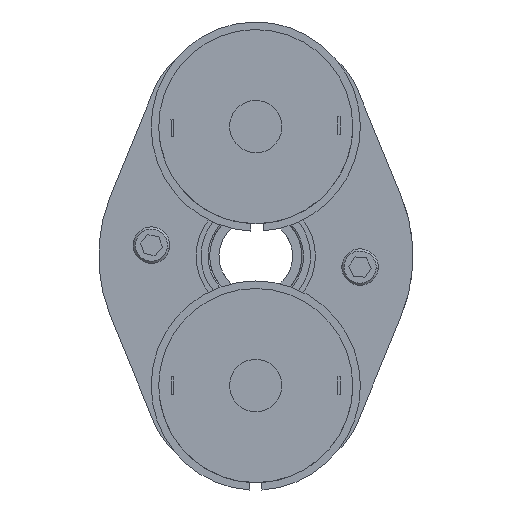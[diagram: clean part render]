
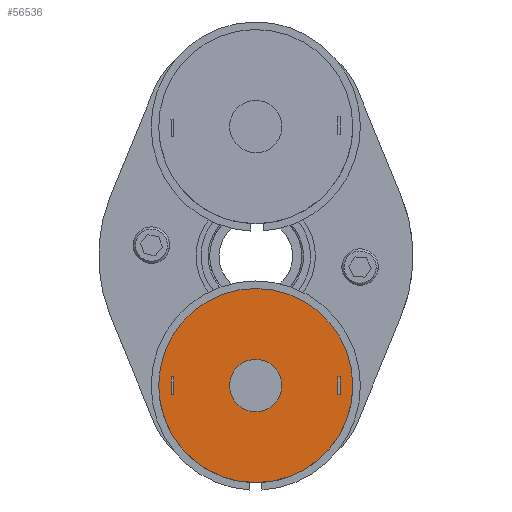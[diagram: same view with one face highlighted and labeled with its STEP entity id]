
A CAD part, front view. The second image highlights one B-rep face of the part: STEP entity #56536.
In plain terms, the highlighted planar face has unit normal (0, -1, 0) as drawn and (0, 0, -1) by its records, which use the part's own axes.
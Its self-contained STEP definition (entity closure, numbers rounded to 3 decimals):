
#77 = DIRECTION ( 'NONE',  ( -1., 0., 0. ) ) ;
#466 = ORIENTED_EDGE ( 'NONE', *, *, #19553, .F. ) ;
#475 = EDGE_CURVE ( 'NONE', #18781, #40641, #41651, .T. ) ;
#2092 = CARTESIAN_POINT ( 'NONE',  ( 15.621, -1.587, -7.112 ) ) ;
#2326 = VECTOR ( 'NONE', #22407, 1000. ) ;
#3331 = CARTESIAN_POINT ( 'NONE',  ( 15.113, -1.587, -7.112 ) ) ;
#3451 = CARTESIAN_POINT ( 'NONE',  ( 0., 0., -7.112 ) ) ;
#3603 = CARTESIAN_POINT ( 'NONE',  ( -15.113, -1.587, -7.112 ) ) ;
#3732 = VECTOR ( 'NONE', #10906, 1000. ) ;
#4494 = DIRECTION ( 'NONE',  ( -1., 0., 0. ) ) ;
#4585 = VERTEX_POINT ( 'NONE', #53015 ) ;
#7139 = VERTEX_POINT ( 'NONE', #54109 ) ;
#8071 = AXIS2_PLACEMENT_3D ( 'NONE', #18563, #32826, #4494 ) ;
#8163 = DIRECTION ( 'NONE',  ( -1., 0., 0. ) ) ;
#8409 = ORIENTED_EDGE ( 'NONE', *, *, #42271, .F. ) ;
#8610 = LINE ( 'NONE', #56504, #44858 ) ;
#9870 = ORIENTED_EDGE ( 'NONE', *, *, #475, .F. ) ;
#10844 = CARTESIAN_POINT ( 'NONE',  ( 17.907, 0., -7.112 ) ) ;
#10906 = DIRECTION ( 'NONE',  ( 0., 1., 0. ) ) ;
#12012 = AXIS2_PLACEMENT_3D ( 'NONE', #56561, #28363, #77 ) ;
#13649 = EDGE_CURVE ( 'NONE', #40641, #22723, #33715, .T. ) ;
#14023 = DIRECTION ( 'NONE',  ( 0., 0., -1. ) ) ;
#14929 = CARTESIAN_POINT ( 'NONE',  ( 0., 0., -7.112 ) ) ;
#15086 = DIRECTION ( 'NONE',  ( -1., 0., 0. ) ) ;
#15510 = ORIENTED_EDGE ( 'NONE', *, *, #35851, .F. ) ;
#16018 = EDGE_CURVE ( 'NONE', #4585, #52836, #26229, .T. ) ;
#16384 = DIRECTION ( 'NONE',  ( -1., 0., 0. ) ) ;
#18563 = CARTESIAN_POINT ( 'NONE',  ( 0., 0., -7.112 ) ) ;
#18781 = VERTEX_POINT ( 'NONE', #2092 ) ;
#19553 = EDGE_CURVE ( 'NONE', #52836, #4585, #39320, .T. ) ;
#19685 = DIRECTION ( 'NONE',  ( -1., 0., 0. ) ) ;
#22407 = DIRECTION ( 'NONE',  ( 0., -1., 0. ) ) ;
#22723 = VERTEX_POINT ( 'NONE', #58177 ) ;
#23291 = PLANE ( 'NONE',  #8071 ) ;
#23865 = FACE_BOUND ( 'NONE', #42487, .T. ) ;
#24960 = CARTESIAN_POINT ( 'NONE',  ( -15.621, 1.587, -7.112 ) ) ;
#24973 = CARTESIAN_POINT ( 'NONE',  ( 4.826, 0., -7.112 ) ) ;
#25013 = AXIS2_PLACEMENT_3D ( 'NONE', #3451, #36537, #8163 ) ;
#25674 = EDGE_LOOP ( 'NONE', ( #26531, #36757, #15510, #8409 ) ) ;
#26229 = CIRCLE ( 'NONE', #12012, 4.826 ) ;
#26531 = ORIENTED_EDGE ( 'NONE', *, *, #33616, .F. ) ;
#28363 = DIRECTION ( 'NONE',  ( 0., 0., -1. ) ) ;
#28476 = VECTOR ( 'NONE', #57108, 1000. ) ;
#29338 = CARTESIAN_POINT ( 'NONE',  ( 15.113, -1.587, -7.112 ) ) ;
#29384 = EDGE_CURVE ( 'NONE', #58219, #7139, #42931, .T. ) ;
#29949 = VERTEX_POINT ( 'NONE', #56632 ) ;
#30649 = VERTEX_POINT ( 'NONE', #10844 ) ;
#30895 = LINE ( 'NONE', #48470, #54451 ) ;
#32058 = DIRECTION ( 'NONE',  ( 0., 1., 0. ) ) ;
#32826 = DIRECTION ( 'NONE',  ( 0., 0., -1. ) ) ;
#33616 = EDGE_CURVE ( 'NONE', #7139, #44247, #30895, .T. ) ;
#33715 = LINE ( 'NONE', #37230, #41852 ) ;
#34973 = FACE_OUTER_BOUND ( 'NONE', #38336, .T. ) ;
#35851 = EDGE_CURVE ( 'NONE', #38055, #58219, #38284, .T. ) ;
#36445 = EDGE_CURVE ( 'NONE', #51238, #30649, #58034, .T. ) ;
#36537 = DIRECTION ( 'NONE',  ( 0., 0., -1. ) ) ;
#36757 = ORIENTED_EDGE ( 'NONE', *, *, #29384, .F. ) ;
#36863 = CARTESIAN_POINT ( 'NONE',  ( -15.113, -1.587, -7.112 ) ) ;
#37230 = CARTESIAN_POINT ( 'NONE',  ( 15.113, 1.587, -7.112 ) ) ;
#38045 = EDGE_LOOP ( 'NONE', ( #48642, #45799, #48286, #9870 ) ) ;
#38055 = VERTEX_POINT ( 'NONE', #36863 ) ;
#38284 = LINE ( 'NONE', #54157, #52240 ) ;
#38336 = EDGE_LOOP ( 'NONE', ( #45397, #52914 ) ) ;
#38589 = LINE ( 'NONE', #3603, #2326 ) ;
#39320 = CIRCLE ( 'NONE', #52056, 4.826 ) ;
#40465 = CARTESIAN_POINT ( 'NONE',  ( -17.907, 0., -7.112 ) ) ;
#40641 = VERTEX_POINT ( 'NONE', #3331 ) ;
#41066 = LINE ( 'NONE', #52399, #28476 ) ;
#41460 = AXIS2_PLACEMENT_3D ( 'NONE', #42362, #14023, #47077 ) ;
#41651 = LINE ( 'NONE', #29338, #52634 ) ;
#41852 = VECTOR ( 'NONE', #32058, 1000. ) ;
#42025 = CARTESIAN_POINT ( 'NONE',  ( -15.621, -1.587, -7.112 ) ) ;
#42271 = EDGE_CURVE ( 'NONE', #44247, #38055, #38589, .T. ) ;
#42362 = CARTESIAN_POINT ( 'NONE',  ( 0., 0., -7.112 ) ) ;
#42390 = DIRECTION ( 'NONE',  ( 0., -1., 0. ) ) ;
#42487 = EDGE_LOOP ( 'NONE', ( #466, #60432 ) ) ;
#42931 = LINE ( 'NONE', #24960, #3732 ) ;
#43318 = CIRCLE ( 'NONE', #25013, 17.907 ) ;
#43960 = DIRECTION ( 'NONE',  ( 1., 0., 0. ) ) ;
#44247 = VERTEX_POINT ( 'NONE', #46527 ) ;
#44858 = VECTOR ( 'NONE', #42390, 1000. ) ;
#45397 = ORIENTED_EDGE ( 'NONE', *, *, #53546, .T. ) ;
#45799 = ORIENTED_EDGE ( 'NONE', *, *, #58941, .F. ) ;
#46527 = CARTESIAN_POINT ( 'NONE',  ( -15.113, 1.587, -7.112 ) ) ;
#47077 = DIRECTION ( 'NONE',  ( -1., 0., 0. ) ) ;
#47517 = FACE_BOUND ( 'NONE', #25674, .T. ) ;
#47972 = DIRECTION ( 'NONE',  ( 0., 0., -1. ) ) ;
#48286 = ORIENTED_EDGE ( 'NONE', *, *, #13649, .F. ) ;
#48470 = CARTESIAN_POINT ( 'NONE',  ( -15.113, 1.587, -7.112 ) ) ;
#48642 = ORIENTED_EDGE ( 'NONE', *, *, #52593, .F. ) ;
#51238 = VERTEX_POINT ( 'NONE', #40465 ) ;
#52056 = AXIS2_PLACEMENT_3D ( 'NONE', #14929, #47972, #19685 ) ;
#52240 = VECTOR ( 'NONE', #16384, 1000. ) ;
#52399 = CARTESIAN_POINT ( 'NONE',  ( 15.621, 1.587, -7.112 ) ) ;
#52593 = EDGE_CURVE ( 'NONE', #29949, #18781, #8610, .T. ) ;
#52634 = VECTOR ( 'NONE', #15086, 1000. ) ;
#52836 = VERTEX_POINT ( 'NONE', #24973 ) ;
#52914 = ORIENTED_EDGE ( 'NONE', *, *, #36445, .T. ) ;
#53015 = CARTESIAN_POINT ( 'NONE',  ( -4.826, 0., -7.112 ) ) ;
#53546 = EDGE_CURVE ( 'NONE', #30649, #51238, #43318, .T. ) ;
#54109 = CARTESIAN_POINT ( 'NONE',  ( -15.621, 1.587, -7.112 ) ) ;
#54157 = CARTESIAN_POINT ( 'NONE',  ( -15.621, -1.587, -7.112 ) ) ;
#54451 = VECTOR ( 'NONE', #43960, 1000. ) ;
#56504 = CARTESIAN_POINT ( 'NONE',  ( 15.621, -1.587, -7.112 ) ) ;
#56536 = ADVANCED_FACE ( 'NONE', ( #47517, #34973, #59962, #23865 ), #23291, .T. ) ;
#56561 = CARTESIAN_POINT ( 'NONE',  ( 0., 0., -7.112 ) ) ;
#56632 = CARTESIAN_POINT ( 'NONE',  ( 15.621, 1.587, -7.112 ) ) ;
#57108 = DIRECTION ( 'NONE',  ( 1., 0., 0. ) ) ;
#58034 = CIRCLE ( 'NONE', #41460, 17.907 ) ;
#58177 = CARTESIAN_POINT ( 'NONE',  ( 15.113, 1.587, -7.112 ) ) ;
#58219 = VERTEX_POINT ( 'NONE', #42025 ) ;
#58941 = EDGE_CURVE ( 'NONE', #22723, #29949, #41066, .T. ) ;
#59962 = FACE_BOUND ( 'NONE', #38045, .T. ) ;
#60432 = ORIENTED_EDGE ( 'NONE', *, *, #16018, .F. ) ;
